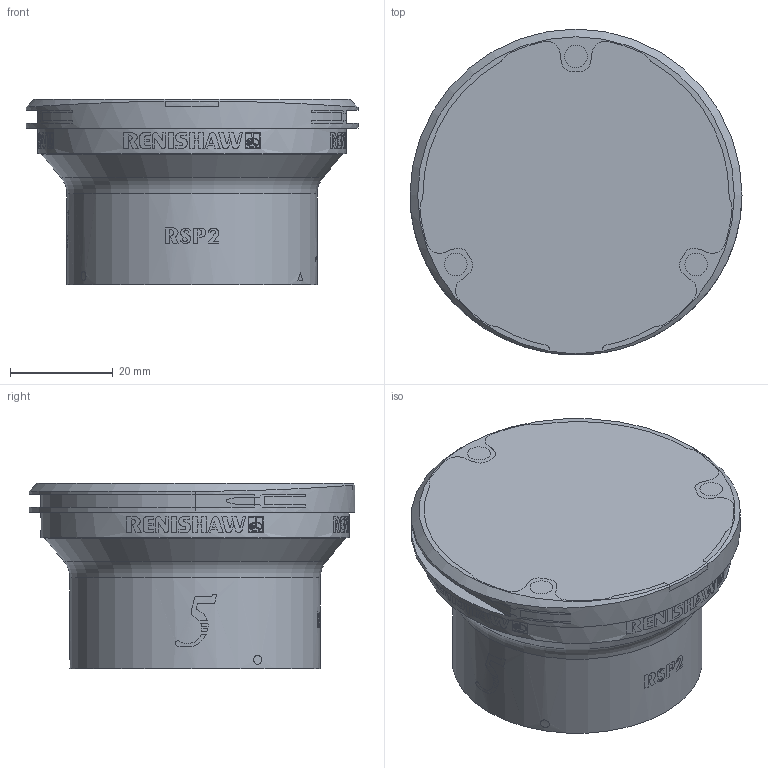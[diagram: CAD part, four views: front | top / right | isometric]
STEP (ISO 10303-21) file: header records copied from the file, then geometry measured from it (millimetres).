
FILE_DESCRIPTION(/* description */ (''),/* implementation_level */ '2;1');
FILE_NAME(/* name */ 'LA_3061_0680_B.stp',/* time_stamp */ '2013-07-04T14:38:13+01:00',/* author */ (''),/* organization */ (''),/* preprocessor_version */ 'ST-DEVELOPER v11',/* originating_system */ 'SIEMENS PLM Software NX 7.5',/* authorisation */ '');
FILE_SCHEMA (('AUTOMOTIVE_DESIGN { 1 0 10303 214 1 1 1 1 }'));
Length unit declared in the file: millimetre
Products named in the file (1): bh105055evkp
Bounding box: 64.6 x 63.39 x 36 mm (x, y, z)
Volume: 77745.6 mm3; surface area: 12575.6 mm2
Topology: 1 solids, 1 shells, 105 faces, 677 edges, 652 vertices
Faces by surface type: cylinder 81, plane 16, extrusion 3, cone 2, bspline 2, torus 1
Full cylindrical faces by diameter (mm): 47.4 x1, 48.7 x1, 58.5 x1, 60 x1
Entity records: 9240 total; most frequent: CARTESIAN_POINT 3840, ORIENTED_EDGE 1318, EDGE_CURVE 659, VERTEX_POINT 643, DIRECTION 488, B_SPLINE_CURVE_WITH_KNOTS 472, AXIS2_PLACEMENT_3D 207, EDGE_LOOP 192
